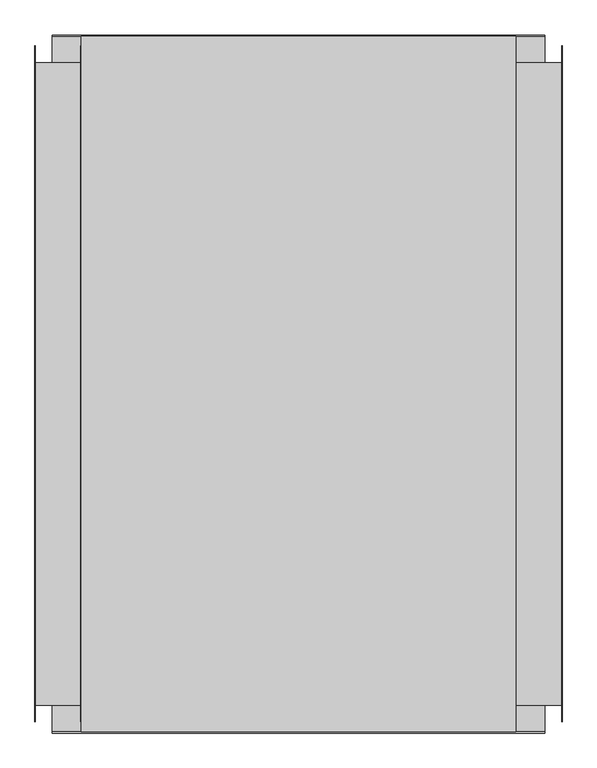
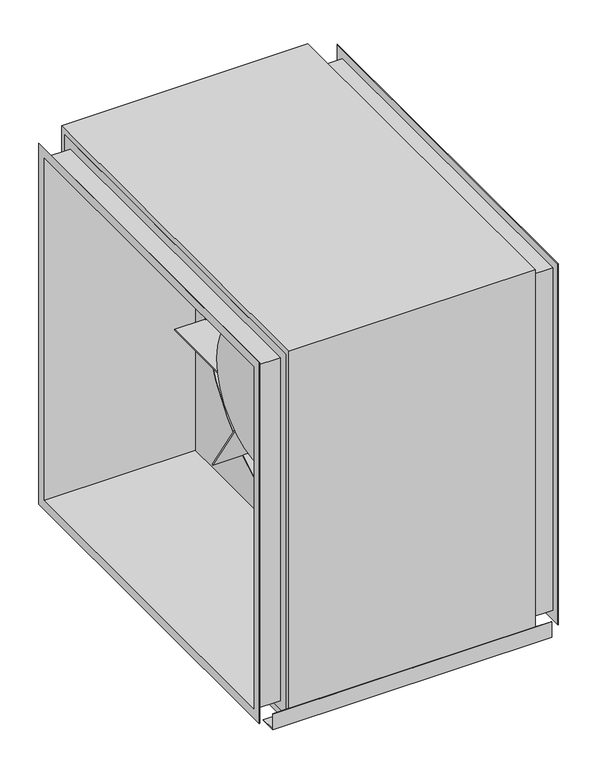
"""IFC4 building model written with IfcOpenShell, lengths in millimetres: proxy geometry, MERCOR - mcr EXi-F - obudowa skrzynkowa : mcr EXi-F 100-1S."""

from ifc_helpers import new_model, si_unit, point, frame, origin, origin_2d, place, context, project, spatial, polyline, circle_curve, trimmed, segment, composite_curve, outline, extrude, source, transform, mapped, element, save
from ifc_brep_helpers import plane_surface, cylinder_surface, revolved_surface, advanced_brep


def mechanical_equipment_16e2f78e(model_context):
    return source(origin(), model_context, "Body", "SolidModel", [
        advanced_brep(
        [(230.0, 0.0, -503.0), (230.0, 0.0, 503.0), (230.0, 0.0, 500.0), (230.0, 0.0, -500.0), (0.0, 0.0, -503.0), (0.0, 0.0, 503.0), (0.0, 0.0, -500.0), (0.0, 0.0, 500.0), (55.0, 0.0, -503.0), (55.0, 0.0, 503.0), (5.0, 0.0, 503.0), (5.0, 0.0, -503.0), (425.0, -602.0, -600.0), (425.0, -552.0, -600.0), (425.0, -552.0, -598.0), (425.0, -600.0, -598.0), (425.0, -600.0, -550.0), (425.0, -602.0, -550.0), (425.0, 602.0, -600.0), (425.0, 602.0, -550.0), (425.0, 600.0, -550.0), (425.0, 600.0, -598.0), (425.0, 552.0, -598.0), (425.0, 552.0, -600.0), (-425.0, -602.0, -600.0), (-425.0, -602.0, -550.0), (-425.0, -600.0, -550.0), (-425.0, -600.0, -598.0), (-425.0, -552.0, -598.0), (-425.0, -552.0, -600.0), (-425.0, 602.0, -600.0), (-425.0, 552.0, -600.0), (-425.0, 552.0, -598.0), (-425.0, 600.0, -598.0), (-425.0, 600.0, -550.0), (-425.0, 602.0, -550.0), (375.0, -552.0, -600.0), (375.0, -552.0, -598.0), (-375.0, -552.0, -598.0), (-375.0, -552.0, -600.0), (375.0, -600.0, -598.0), (-375.0, -600.0, -598.0), (375.0, -600.0, -550.0), (-375.0, -600.0, -550.0), (-375.0, 600.0, -550.0), (375.0, 600.0, -550.0), (375.0, 600.0, -598.0), (-375.0, 600.0, -598.0), (375.0, 552.0, -598.0), (-375.0, 552.0, -598.0), (375.0, 552.0, -600.0), (-375.0, 552.0, -600.0), (455.0, -583.0, -580.75), (455.0, 583.0, -580.75), (455.0, 583.0, 580.75), (455.0, -583.0, 580.75), (455.0, 553.0, 550.75), (455.0, 553.0, -550.75), (455.0, -553.0, -550.75), (455.0, -553.0, 550.75), (454.4, -583.0, -580.75), (454.4, 583.0, -580.75), (375.6, 583.0, -580.75), (375.6, -583.0, -580.75), (375.0, -583.0, -580.75), (375.0, 583.0, -580.75), (454.4, 583.0, 580.75), (375.6, 583.0, 580.75), (375.0, 583.0, 580.75), (454.4, -583.0, 580.75), (375.6, -583.0, 580.75), (375.0, -583.0, 580.75), (55.0, 553.0, 550.75), (55.0, 553.0, -550.75), (55.0, -553.0, -550.75), (55.0, -553.0, 550.75), (-455.0, -583.0, -580.75), (-455.0, -583.0, 580.75), (-455.0, 583.0, 580.75), (-455.0, 583.0, -580.75), (-455.0, 553.0, 550.75), (-455.0, -553.0, 550.75), (-455.0, -553.0, -550.75), (-455.0, 553.0, -550.75), (-454.4, 583.0, -580.75), (-454.4, -583.0, -580.75), (-375.6, -583.0, -580.75), (-375.6, 583.0, -580.75), (-375.0, 583.0, -580.75), (-375.0, -583.0, -580.75), (-454.4, 583.0, 580.75), (-375.6, 583.0, 580.75), (-375.0, 583.0, 580.75), (-454.4, -583.0, 580.75), (-375.6, -583.0, 580.75), (-375.0, -583.0, 580.75), (5.0, 553.0, -550.75), (5.0, 553.0, 550.75), (5.0, -553.0, -550.75), (5.0, -553.0, 550.75), (375.0, 600.0, 600.0), (375.0, -600.0, 600.0), (-375.0, -600.0, 600.0), (-375.0, 600.0, 600.0), (375.6, -554.35, -552.1), (375.6, 554.35, -552.1), (454.4, 554.35, -552.1), (454.4, -554.35, -552.1), (375.6, 554.35, 552.1), (454.4, 554.35, 552.1), (375.6, -554.35, 552.1), (454.4, -554.35, 552.1), (-454.4, -554.35, -552.1), (-454.4, 554.35, -552.1), (-375.6, 554.35, -552.1), (-375.6, -554.35, -552.1), (-454.4, 554.35, 552.1), (-375.6, 554.35, 552.1), (-454.4, -554.35, 552.1), (-375.6, -554.35, 552.1)],
        [
            (0, 1, circle_curve(frame((230.0, 0.0, 0.0), z_axis=(1.0, 0.0, 0.0), x_axis=(0.0, 0.0, 1.0)), 503.0)),
            (1, 0, circle_curve(frame((230.0, 0.0, 0.0), z_axis=(1.0, 0.0, 0.0), x_axis=(0.0, 0.0, 1.0)), 503.0)),
            (2, 3, circle_curve(frame((230.0, 0.0, 0.0), z_axis=(-1.0, 0.0, 0.0), x_axis=(0.0, 0.0, 1.0)), 500.0)),
            (3, 2, circle_curve(frame((230.0, 0.0, 0.0), z_axis=(-1.0, 0.0, 0.0), x_axis=(0.0, 0.0, 1.0)), 500.0)),
            (4, 5, circle_curve(frame((0.0, 0.0, 0.0), z_axis=(-1.0, 0.0, 0.0), x_axis=(0.0, 0.0, 1.0)), 503.0)),
            (5, 4, circle_curve(frame((0.0, 0.0, 0.0), z_axis=(-1.0, 0.0, 0.0), x_axis=(0.0, 0.0, 1.0)), 503.0)),
            (6, 7, circle_curve(frame((0.0, 0.0, 0.0), z_axis=(1.0, 0.0, 0.0), x_axis=(0.0, 0.0, 1.0)), 500.0)),
            (7, 6, circle_curve(frame((0.0, 0.0, 0.0), z_axis=(1.0, 0.0, 0.0), x_axis=(0.0, 0.0, 1.0)), 500.0)),
            (0, 8),
            (8, 9, circle_curve(frame((55.0, 0.0, 0.0), z_axis=(1.0, 0.0, 0.0), x_axis=(0.0, 0.0, 1.0)), 503.0)),
            (9, 1),
            (5, 10),
            (10, 11, circle_curve(frame((5.0, 0.0, 0.0), z_axis=(-1.0, 0.0, 0.0), x_axis=(0.0, 0.0, 1.0)), 503.0)),
            (11, 4),
            (9, 8, circle_curve(frame((55.0, 0.0, 0.0), z_axis=(1.0, 0.0, 0.0), x_axis=(0.0, 0.0, 1.0)), 503.0)),
            (11, 10, circle_curve(frame((5.0, 0.0, 0.0), z_axis=(-1.0, 0.0, 0.0), x_axis=(0.0, 0.0, 1.0)), 503.0)),
            (6, 3),
            (2, 7),
            (12, 13),
            (13, 14),
            (14, 15),
            (15, 16),
            (16, 17),
            (17, 12),
            (18, 19),
            (19, 20),
            (20, 21),
            (21, 22),
            (22, 23),
            (23, 18),
            (24, 25),
            (25, 26),
            (26, 27),
            (27, 28),
            (28, 29),
            (29, 24),
            (30, 31),
            (31, 32),
            (32, 33),
            (33, 34),
            (34, 35),
            (35, 30),
            (13, 36),
            (36, 37),
            (37, 14),
            (28, 38),
            (38, 39),
            (39, 29),
            (37, 40),
            (40, 15),
            (27, 41),
            (41, 38),
            (40, 42),
            (42, 16),
            (26, 43),
            (43, 41),
            (42, 43),
            (25, 17),
            (24, 12),
            (18, 30),
            (35, 19),
            (34, 44),
            (44, 45),
            (45, 20),
            (45, 46),
            (46, 21),
            (33, 47),
            (47, 44),
            (46, 48),
            (48, 22),
            (32, 49),
            (49, 47),
            (48, 50),
            (50, 23),
            (31, 51),
            (51, 49),
            (52, 53),
            (53, 54),
            (54, 55),
            (55, 52),
            (56, 57),
            (57, 58),
            (58, 59),
            (59, 56),
            (52, 60),
            (60, 61),
            (61, 53),
            (62, 63),
            (63, 64),
            (64, 65),
            (65, 62),
            (61, 66),
            (66, 54),
            (67, 62),
            (65, 68),
            (68, 67),
            (66, 69),
            (69, 55),
            (70, 67),
            (68, 71),
            (71, 70),
            (69, 60),
            (63, 70),
            (71, 64),
            (56, 72),
            (72, 73),
            (73, 57),
            (73, 74),
            (74, 58),
            (74, 75),
            (75, 59),
            (75, 72),
            (76, 77),
            (77, 78),
            (78, 79),
            (79, 76),
            (80, 81),
            (81, 82),
            (82, 83),
            (83, 80),
            (79, 84),
            (84, 85),
            (85, 76),
            (86, 87),
            (87, 88),
            (88, 89),
            (89, 86),
            (78, 90),
            (90, 84),
            (87, 91),
            (91, 92),
            (92, 88),
            (77, 93),
            (93, 90),
            (91, 94),
            (94, 95),
            (95, 92),
            (85, 93),
            (94, 86),
            (89, 95),
            (83, 96),
            (96, 97),
            (97, 80),
            (82, 98),
            (98, 96),
            (81, 99),
            (99, 98),
            (97, 99),
            (100, 101),
            (101, 42),
            (36, 50),
            (45, 100),
            (102, 103),
            (103, 44),
            (51, 39),
            (43, 102),
            (101, 102),
            (103, 100),
            (104, 105),
            (105, 106),
            (106, 107),
            (107, 104),
            (105, 108),
            (108, 109),
            (109, 106),
            (108, 110),
            (110, 111),
            (111, 109),
            (111, 107),
            (110, 104),
            (112, 113),
            (113, 114),
            (114, 115),
            (115, 112),
            (113, 116),
            (116, 117),
            (117, 114),
            (116, 118),
            (118, 119),
            (119, 117),
            (119, 115),
            (118, 112),
        ],
        [
            plane_surface(frame((230.0, 0.0, 503.0), z_axis=(1.0, 0.0, 0.0), x_axis=(0.0, -1.0, 0.0))),
            plane_surface(frame((0.0, 0.0, 503.0), z_axis=(-1.0, 0.0, 0.0), x_axis=(0.0, 1.0, 0.0))),
            cylinder_surface(frame((0.0, 0.0, 0.0), z_axis=(1.0, 0.0, 0.0), x_axis=(0.0, 0.0, 1.0)), 503.0),
            revolved_surface(polyline([(230.0, 0.0, 500.0), (0.0, 0.0, 500.0)]), (-455.0, 0.0, 0.0), (1.0, 0.0, 0.0)),
            plane_surface(frame((425.0, -602.0, -600.0), z_axis=(1.0, 0.0, 0.0), x_axis=(0.0, 1.0, 0.0))),
            plane_surface(frame((-425.0, -602.0, -600.0), z_axis=(-1.0, 0.0, 0.0), x_axis=(0.0, -1.0, 0.0))),
            plane_surface(frame((425.0, -552.0, -600.0), z_axis=(0.0, 1.0, 0.0), x_axis=(-1.0, 0.0, 0.0))),
            plane_surface(frame((425.0, -552.0, -598.0), z_axis=(0.0, 0.0, 1.0), x_axis=(-1.0, 0.0, 0.0))),
            plane_surface(frame((425.0, -600.0, -598.0), z_axis=(0.0, 1.0, 0.0), x_axis=(-1.0, 0.0, 0.0))),
            plane_surface(frame((425.0, -600.0, -550.0), z_axis=(0.0, 0.0, 1.0), x_axis=(-1.0, 0.0, 0.0))),
            plane_surface(frame((425.0, -602.0, -550.0), z_axis=(0.0, -1.0, 0.0), x_axis=(-1.0, 0.0, 0.0))),
            plane_surface(frame((425.0, 602.0, -600.0), z_axis=(0.0, 1.0, 0.0), x_axis=(-1.0, 0.0, 0.0))),
            plane_surface(frame((425.0, 602.0, -550.0), z_axis=(0.0, 0.0, 1.0), x_axis=(-1.0, 0.0, 0.0))),
            plane_surface(frame((425.0, 600.0, -550.0), z_axis=(0.0, -1.0, 0.0), x_axis=(-1.0, 0.0, 0.0))),
            plane_surface(frame((425.0, 600.0, -598.0), z_axis=(0.0, 0.0, 1.0), x_axis=(-1.0, 0.0, 0.0))),
            plane_surface(frame((425.0, 552.0, -598.0), z_axis=(0.0, -1.0, 0.0), x_axis=(-1.0, 0.0, 0.0))),
            plane_surface(frame((455.0, -583.0, -580.75), z_axis=(1.0, 0.0, 0.0), x_axis=(0.0, 1.0, 0.0))),
            plane_surface(frame((455.0, -583.0, -580.75), z_axis=(0.0, 0.0, -1.0), x_axis=(-1.0, 0.0, 0.0))),
            plane_surface(frame((455.0, 583.0, -580.75), z_axis=(0.0, 1.0, 0.0), x_axis=(-1.0, 0.0, 0.0))),
            plane_surface(frame((455.0, 583.0, 580.75), z_axis=(0.0, 0.0, 1.0), x_axis=(-1.0, 0.0, 0.0))),
            plane_surface(frame((455.0, -583.0, 580.75), z_axis=(0.0, -1.0, 0.0), x_axis=(-1.0, 0.0, 0.0))),
            plane_surface(frame((455.0, 553.0, 550.75), z_axis=(0.0, -1.0, 0.0), x_axis=(-1.0, 0.0, 0.0))),
            plane_surface(frame((455.0, 553.0, -550.75), z_axis=(0.0, 0.0, 1.0), x_axis=(-1.0, 0.0, 0.0))),
            plane_surface(frame((455.0, -553.0, -550.75), z_axis=(0.0, 1.0, 0.0), x_axis=(-1.0, 0.0, 0.0))),
            plane_surface(frame((455.0, -553.0, 550.75), z_axis=(0.0, 0.0, -1.0), x_axis=(-1.0, 0.0, 0.0))),
            plane_surface(frame((-455.0, -583.0, 580.75), z_axis=(-1.0, 0.0, 0.0), x_axis=(0.0, 0.0, 1.0))),
            plane_surface(frame((-455.0, 583.0, -580.75), z_axis=(0.0, 0.0, -1.0), x_axis=(1.0, 0.0, 0.0))),
            plane_surface(frame((-455.0, 583.0, 580.75), z_axis=(0.0, 1.0, 0.0), x_axis=(1.0, 0.0, 0.0))),
            plane_surface(frame((-455.0, -583.0, 580.75), z_axis=(0.0, 0.0, 1.0), x_axis=(1.0, 0.0, 0.0))),
            plane_surface(frame((-455.0, -583.0, -580.75), z_axis=(0.0, -1.0, 0.0), x_axis=(1.0, 0.0, 0.0))),
            plane_surface(frame((-455.0, 553.0, -550.75), z_axis=(0.0, -1.0, 0.0), x_axis=(1.0, 0.0, 0.0))),
            plane_surface(frame((-455.0, -553.0, -550.75), z_axis=(0.0, 0.0, 1.0), x_axis=(1.0, 0.0, 0.0))),
            plane_surface(frame((-455.0, -553.0, 550.75), z_axis=(0.0, 1.0, 0.0), x_axis=(1.0, 0.0, 0.0))),
            plane_surface(frame((-455.0, 553.0, 550.75), z_axis=(0.0, 0.0, -1.0), x_axis=(1.0, 0.0, 0.0))),
            plane_surface(frame((375.0, -600.0, -600.0), z_axis=(1.0, 0.0, 0.0), x_axis=(0.0, 0.0, -1.0))),
            plane_surface(frame((-375.0, -600.0, -600.0), z_axis=(-1.0, 0.0, 0.0), x_axis=(0.0, 0.0, 1.0))),
            plane_surface(frame((375.0, -600.0, 600.0), z_axis=(0.0, -1.0, 0.0), x_axis=(-1.0, 0.0, 0.0))),
            plane_surface(frame((375.0, -600.0, -600.0), z_axis=(0.0, 0.0, -1.0), x_axis=(-1.0, 0.0, 0.0))),
            plane_surface(frame((375.0, 600.0, -600.0), z_axis=(0.0, 1.0, 0.0), x_axis=(-1.0, 0.0, 0.0))),
            plane_surface(frame((375.0, 600.0, 600.0), z_axis=(0.0, 0.0, 1.0), x_axis=(-1.0, 0.0, 0.0))),
            plane_surface(frame((454.4, -554.35, -552.1), z_axis=(0.0, 0.0, -1.0), x_axis=(0.0, 1.0, 0.0))),
            plane_surface(frame((454.4, 554.35, -552.1), z_axis=(0.0, 1.0, 0.0), x_axis=(0.0, 0.0, 1.0))),
            plane_surface(frame((454.4, 554.35, 552.1), z_axis=(0.0, 0.0, 1.0), x_axis=(0.0, -1.0, 0.0))),
            plane_surface(frame((454.4, -602.25, 600.0), z_axis=(-1.0, 0.0, 0.0), x_axis=(0.0, 0.0, -1.0))),
            plane_surface(frame((454.4, -554.35, 552.1), z_axis=(0.0, -1.0, 0.0), x_axis=(0.0, 0.0, -1.0))),
            plane_surface(frame((375.6, -554.35, 552.1), z_axis=(1.0, 0.0, 0.0), x_axis=(0.0, 0.0, -1.0))),
            plane_surface(frame((-375.6, -554.35, -552.1), z_axis=(0.0, 0.0, -1.0), x_axis=(0.0, 1.0, 0.0))),
            plane_surface(frame((-375.6, 554.35, -552.1), z_axis=(0.0, 1.0, 0.0), x_axis=(0.0, 0.0, 1.0))),
            plane_surface(frame((-375.6, 554.35, 552.1), z_axis=(0.0, 0.0, 1.0), x_axis=(0.0, -1.0, 0.0))),
            plane_surface(frame((-375.6, -602.25, 600.0), z_axis=(-1.0, 0.0, 0.0), x_axis=(0.0, 0.0, -1.0))),
            plane_surface(frame((-375.6, -554.35, 552.1), z_axis=(0.0, -1.0, 0.0), x_axis=(0.0, 0.0, -1.0))),
            plane_surface(frame((-454.4, -554.35, 552.1), z_axis=(1.0, 0.0, 0.0), x_axis=(0.0, 0.0, -1.0))),
            plane_surface(frame((55.0, -553.0, -550.75), z_axis=(1.0, 0.0, 0.0), x_axis=(0.0, 0.0, 1.0))),
            plane_surface(frame((5.0, -553.0, 550.75), z_axis=(-1.0, 0.0, 0.0), x_axis=(0.0, -1.0, 0.0))),
        ],
        [
            (0, [[1, 2], [3, 4]]),
            (1, [[5, 6], [7, 8]]),
            (2, [[-1, 9, 10, 11]]),
            (2, [[-6, 12, 13, 14]]),
            (2, [[-2, -11, 15, -9]]),
            (2, [[-5, -14, 16, -12]]),
            (3, [[17, -3, 18, -7]]),
            (3, [[-17, -8, -18, -4]]),
            (4, [[19, 20, 21, 22, 23, 24]]),
            (4, [[25, 26, 27, 28, 29, 30]]),
            (5, [[31, 32, 33, 34, 35, 36]]),
            (5, [[37, 38, 39, 40, 41, 42]]),
            (6, [[-20, 43, 44, 45]]),
            (6, [[-35, 46, 47, 48]]),
            (7, [[-21, -45, 49, 50]]),
            (7, [[-34, 51, 52, -46]]),
            (8, [[-22, -50, 53, 54]]),
            (8, [[-33, 55, 56, -51]]),
            (9, [[-23, -54, 57, -55, -32, 58]]),
            (10, [[-24, -58, -31, 59]]),
            (11, [[-25, 60, -42, 61]]),
            (12, [[-26, -61, -41, 62, 63, 64]]),
            (13, [[-27, -64, 65, 66]]),
            (13, [[-40, 67, 68, -62]]),
            (14, [[-28, -66, 69, 70]]),
            (14, [[-39, 71, 72, -67]]),
            (15, [[-29, -70, 73, 74]]),
            (15, [[-38, 75, 76, -71]]),
            (16, [[77, 78, 79, 80], [81, 82, 83, 84]]),
            (17, [[-77, 85, 86, 87]]),
            (17, [[88, 89, 90, 91]]),
            (18, [[-78, -87, 92, 93]]),
            (18, [[94, -91, 95, 96]]),
            (19, [[-79, -93, 97, 98]]),
            (19, [[99, -96, 100, 101]]),
            (20, [[-80, -98, 102, -85]]),
            (20, [[103, -101, 104, -89]]),
            (21, [[-81, 105, 106, 107]]),
            (22, [[-82, -107, 108, 109]]),
            (23, [[-83, -109, 110, 111]]),
            (24, [[-84, -111, 112, -105]]),
            (25, [[113, 114, 115, 116], [117, 118, 119, 120]]),
            (26, [[-116, 121, 122, 123]]),
            (26, [[124, 125, 126, 127]]),
            (27, [[-115, 128, 129, -121]]),
            (27, [[130, 131, 132, -125]]),
            (28, [[-114, 133, 134, -128]]),
            (28, [[135, 136, 137, -131]]),
            (29, [[-113, -123, 138, -133]]),
            (29, [[139, -127, 140, -136]]),
            (30, [[-120, 141, 142, 143]]),
            (31, [[-119, 144, 145, -141]]),
            (32, [[-118, 146, 147, -144]]),
            (33, [[-117, -143, 148, -146]]),
            (34, [[149, 150, -53, -49, -44, 151, -73, -69, -65, 152], [-90, -104, -100, -95]]),
            (35, [[153, 154, -68, -72, -76, 155, -47, -52, -56, 156], [-126, -132, -137, -140]]),
            (36, [[157, -156, -57, -150]]),
            (37, [[-19, -59, -36, -48, -155, -75, -37, -60, -30, -74, -151, -43]]),
            (38, [[158, -152, -63, -154]]),
            (39, [[-149, -158, -153, -157]]),
            (40, [[159, 160, 161, 162]]),
            (41, [[-160, 163, 164, 165]]),
            (42, [[-164, 166, 167, 168]]),
            (43, [[-86, -102, -97, -92], [-161, -165, -168, 169]]),
            (44, [[-162, -169, -167, 170]]),
            (45, [[-88, -94, -99, -103], [-159, -170, -166, -163]]),
            (46, [[171, 172, 173, 174]]),
            (47, [[-172, 175, 176, 177]]),
            (48, [[-176, 178, 179, 180]]),
            (49, [[-124, -139, -135, -130], [-173, -177, -180, 181]]),
            (50, [[-174, -181, -179, 182]]),
            (51, [[-122, -129, -134, -138], [-171, -182, -178, -175]]),
            (52, [[-110, -108, -106, -112], [-10, -15]]),
            (53, [[-148, -142, -145, -147], [-13, -16]]),
        ],
    ),
        advanced_brep(
        [(118.0, -210.0, 0.0), (118.0, 210.0, 0.0), (-127.01, -210.0, 0.0), (-127.01, 210.0, 0.0), (92.5, -44.25, 205.2850153), (6.5, -44.25, 205.2850153), (6.5, 44.25, 205.2850153), (92.5, 44.25, 205.2850153), (92.5, -44.25, 380.0), (6.5, -44.25, 380.0), (6.5, 44.25, 380.0), (92.5, 44.25, 380.0)],
        [
            (0, 1, circle_curve(frame((118.0, 0.0, 0.0), z_axis=(1.0, 0.0, 0.0), x_axis=(0.0, 1.0, 0.0)), 210.0)),
            (1, 0, circle_curve(frame((118.0, 0.0, 0.0), z_axis=(1.0, 0.0, 0.0), x_axis=(0.0, 1.0, 0.0)), 210.0)),
            (2, 3, circle_curve(frame((-127.01, 0.0, 0.0), z_axis=(-1.0, 0.0, 0.0), x_axis=(0.0, 1.0, 0.0)), 210.0)),
            (3, 2, circle_curve(frame((-127.01, 0.0, 0.0), z_axis=(-1.0, 0.0, 0.0), x_axis=(0.0, 1.0, 0.0)), 210.0)),
            (0, 2),
            (3, 1),
            (4, 5),
            (5, 6, circle_curve(frame((6.5, 0.0, 0.0), z_axis=(-1.0, 0.0, 0.0), x_axis=(0.0, 1.0, 0.0)), 210.0)),
            (6, 7),
            (7, 4, circle_curve(frame((92.5, 0.0, 0.0), z_axis=(1.0, 0.0, 0.0), x_axis=(0.0, 1.0, 0.0)), 210.0)),
            (8, 9),
            (9, 5),
            (4, 8),
            (10, 11),
            (11, 7),
            (6, 10),
            (11, 8),
            (10, 9),
        ],
        [
            plane_surface(frame((118.0, 210.0, 0.0), z_axis=(1.0, 0.0, 0.0), x_axis=(0.0, 0.0, 1.0))),
            plane_surface(frame((-127.01, 210.0, 0.0), z_axis=(-1.0, 0.0, 0.0), x_axis=(0.0, 0.0, -1.0))),
            cylinder_surface(frame((-127.01, 0.0, 0.0), z_axis=(1.0, 0.0, 0.0), x_axis=(0.0, 1.0, 0.0)), 210.0),
            plane_surface(frame((-1171.9903051, -44.25, 0.0), z_axis=(0.0, -1.0, 0.0), x_axis=(1.0, 0.0, 0.0))),
            plane_surface(frame((-1171.9903051, 44.25, 0.0), z_axis=(0.0, 1.0, 0.0), x_axis=(-1.0, 0.0, 0.0))),
            plane_surface(frame((92.5, -44.25, 0.0), z_axis=(1.0, 0.0, 0.0), x_axis=(0.0, 1.0, 0.0))),
            plane_surface(frame((92.5, -44.25, 380.0), z_axis=(0.0, 0.0, 1.0), x_axis=(0.0, 1.0, 0.0))),
            plane_surface(frame((6.5, -44.25, 380.0), z_axis=(-1.0, 0.0, 0.0), x_axis=(0.0, 1.0, 0.0))),
        ],
        [
            (0, [[1, 2]]),
            (1, [[3, 4]]),
            (2, [[-1, 5, -4, 6]]),
            (2, [[-2, -6, -3, -5], [7, 8, 9, 10]]),
            (3, [[11, 12, -7, 13]]),
            (4, [[14, 15, -9, 16]]),
            (5, [[17, -13, -10, -15]]),
            (6, [[-11, -17, -14, 18]]),
            (7, [[-18, -16, -8, -12]]),
        ],
    ),
        extrude(outline(composite_curve([segment(trimmed(circle_curve(origin_2d(), 225.0), [point((-225.0, 0.0))], [point((225.0, 0.0))], False, "CARTESIAN"), True, "CONTINUOUS"), segment(trimmed(circle_curve(origin_2d(), 225.0), [point((225.0, 0.0))], [point((-225.0, 0.0))], False, "CARTESIAN"), True, "CONTINUOUS")], self_intersect=False)), frame((118.0, 0.0, 0.0), z_axis=(1.0, 0.0, 0.0), x_axis=(0.0, 1.0, 0.0)), (0.0, 0.0, 1.0), 98.0),
        extrude(outline(composite_curve([segment(polyline([(88.9060018, -92.9703291), (-88.9333066, -92.9703291), (-292.1199285, -405.7905216)]), True, "CONTINUOUS"), segment(trimmed(circle_curve(origin_2d(), 500.0), [point((-292.1199285, -405.7905216))], [point((-294.5525463, -404.0282137))], False, "CARTESIAN"), True, "CONTINUOUS"), segment(polyline([(-294.5525463, -404.0282137), (-92.5105992, -92.9703291), (-491.280488, -92.9703291)]), True, "CONTINUOUS"), segment(trimmed(circle_curve(origin_2d(), 500.0), [point((-491.280488, -92.9703291))], [point((-491.8387336, -89.9703291))], False, "CARTESIAN"), True, "CONTINUOUS"), segment(polyline([(-491.8387336, -89.9703291), (491.8387336, -89.9703291)]), True, "CONTINUOUS"), segment(trimmed(circle_curve(origin_2d(), 500.0), [point((491.8387336, -89.9703291))], [point((491.280488, -92.9703291))], False, "CARTESIAN"), True, "CONTINUOUS"), segment(polyline([(491.280488, -92.9703291), (92.4838891, -92.9703291), (294.4820257, -404.0796166)]), True, "CONTINUOUS"), segment(trimmed(circle_curve(origin_2d(), 500.0), [point((294.4820257, -404.0796166))], [point((292.0484187, -405.8419904))], False, "CARTESIAN"), True, "CONTINUOUS"), segment(polyline([(292.0484187, -405.8419904), (88.9060018, -92.9703291)]), True, "CONTINUOUS")], self_intersect=False)), frame((-92.8173111, 0.0, 0.0), z_axis=(1.0, 0.0, 0.0), x_axis=(0.0, 1.0, 0.0)), (0.0, 0.0, 1.0), 186.3173111),
        extrude(outline(polyline([(-343.3930748, 338.4544965), (-273.6830305, 396.9481689), (-45.5, 125.0102226), (-45.5, 480.0), (45.5, 480.0), (45.5, 125.0102226), (273.6830305, 396.9481689), (343.3930748, 338.4544965), (115.2100443, 66.5165501), (464.8067294, 128.159878), (480.6087135, 38.5423725), (131.0120285, -23.1009554), (438.4421938, -200.5958441), (392.9421938, -279.4041559), (85.5120285, -101.9092672), (206.925683, -435.4905415), (121.4136546, -466.6143745), (0.0, -133.0331002), (-121.4136546, -466.6143745), (-206.925683, -435.4905415), (-85.5120285, -101.9092672), (-392.9421938, -279.4041559), (-438.4421938, -200.5958441), (-131.0120285, -23.1009554), (-480.6087135, 38.5423725), (-464.8067294, 128.159878), (-115.2100443, 66.5165501), (-343.3930748, 338.4544965)])), frame((148.0, 0.0, 0.0), z_axis=(1.0, 0.0, 0.0), x_axis=(0.0, 1.0, 0.0)), (0.0, 0.0, 1.0), 64.0),
    ])


if __name__ == "__main__":
    model = new_model("IFC4")
    model_context = context("Model", 3, world=origin())
    ifc_project = project(units=[si_unit("LENGTHUNIT", "METRE", prefix="MILLI")], contexts=[model_context])
    site = spatial("IfcSite", under=ifc_project)
    building = spatial("IfcBuilding", under=site)
    placement = place(None, origin())
    mechanical_equipment_shape = mechanical_equipment_16e2f78e(model_context)
    element("IfcBuildingElementProxy", 1, Name="MERCOR - mcr EXi-F - obudowa skrzynkowa : mcr EXi-F 100-1S", ObjectType="MERCOR - mcr EXi-F - obudowa skrzynkowa : mcr EXi-F 100-1S", at=placement, inside=building, context=model_context, shape_type="MappedRepresentation", body=[
        mapped(mechanical_equipment_shape, transform((0.0, 0.0, 0.0), x_axis=(1.0, 0.0, 0.0), y_axis=(0.0, 1.0, 0.0), z_axis=(0.0, 0.0, 1.0))),
    ])
    save(model, "model.ifc")
